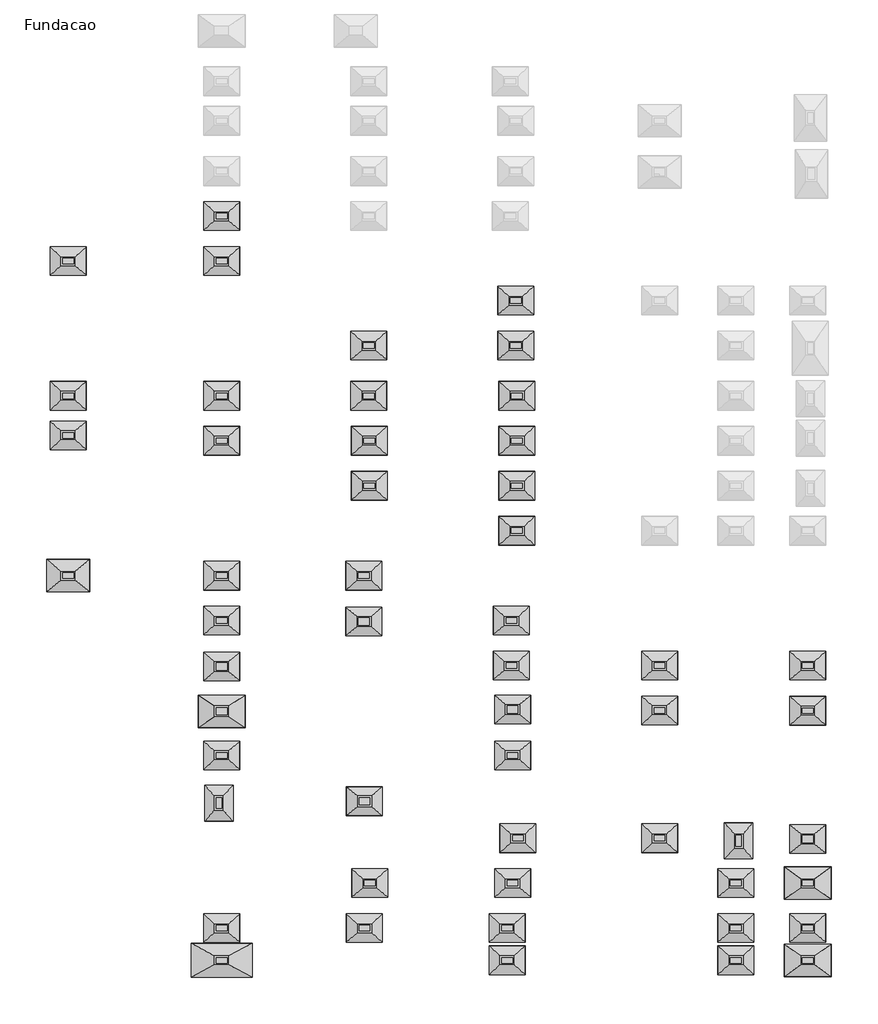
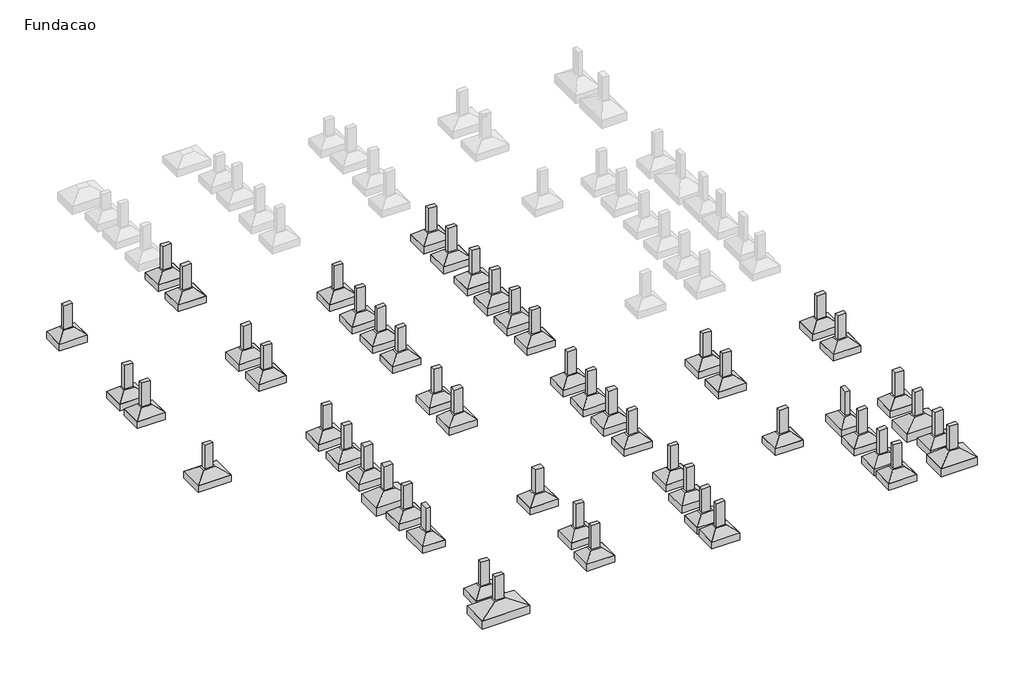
# One storey, part 1 of 2: 52 columns, 52 fasteners.
"""IFC4 building model written with IfcOpenShell, lengths in millimetres."""

from ifc_helpers import new_model, si_unit, origin, place, context, project, spatial, faceted_brep, transform, mapped, element, save
from components import tqs_pilar_retangular_15_0x30_0_0037dfdc, tqs_pilar_retangular_20_0x30_0_43656a7f, s1_6223030e, s14_25b32baf, s58_72b41ca2, s64_ef9f5a06, s15_ff27a8e9, s85_b6db43a6

model = new_model("IFC4")

# Units and contexts
model_context = context("Model", 3, world=origin())
ifc_project = project(units=[si_unit("LENGTHUNIT", "METRE", prefix="MILLI")], contexts=[model_context])

# Site, building, storey
site = spatial("IfcSite", under=ifc_project)
building = spatial("IfcBuilding", under=site)
storey = spatial("IfcBuildingStorey", under=building, Name="Fundacao", Elevation=0.0)

# Columns
placement = place(None, origin())
element("IfcColumn", 1, ObjectType="TQS - Pilar retangular : 15,0x30,0", at=placement, inside=storey, context=model_context, shape_type="Brep", body=[
    faceted_brep([(46000.0, 6220.0, 0.0), (46300.0, 6220.0, 0.0), (46300.0, 6070.0, 0.0), (46000.0, 6070.0, 0.0), (46000.0, 6220.0, 900.0), (46300.0, 6220.0, 900.0), (46000.0, 6220.0, 800.0), (46300.0, 6070.0, 900.0), (46000.0, 6070.0, 900.0)], [[[0, 1, 2, 3]], [[4, 5, 1, 0, 6]], [[5, 7, 2, 1]], [[7, 8, 3, 2]], [[8, 4, 6, 0, 3]], [[4, 8, 7, 5]]]),
])
element("IfcColumn", 2, ObjectType="TQS - Pilar retangular : 15,0x30,0", at=placement, inside=storey, context=model_context, shape_type="Brep", body=[
    faceted_brep([(37820.0, 9820.0, 0.0), (38120.0, 9820.0, 0.0), (38120.0, 9670.0, 0.0), (37820.0, 9670.0, 0.0), (37820.0, 9820.0, 900.0), (38120.0, 9820.0, 900.0), (37820.0, 9820.0, 800.0), (38120.0, 9670.0, 900.0), (37820.0, 9670.0, 900.0)], [[[0, 1, 2, 3]], [[4, 5, 1, 0, 6]], [[5, 7, 2, 1]], [[7, 8, 3, 2]], [[8, 4, 6, 0, 3]], [[4, 8, 7, 5]]]),
])
element("IfcColumn", 3, ObjectType="TQS - Pilar retangular : 15,0x30,0", at=placement, inside=storey, context=model_context, shape_type="Brep", body=[
    faceted_brep([(46000.0, 7470.0, 0.0), (46300.0, 7470.0, 0.0), (46300.0, 7320.0, 0.0), (46000.0, 7320.0, 0.0), (46000.0, 7470.0, 900.0), (46300.0, 7470.0, 900.0), (46300.0, 7470.0, 800.0), (46000.0, 7470.0, 800.0), (46300.0, 7320.0, 900.0), (46300.0, 7320.0, 800.0), (46000.0, 7320.0, 900.0), (46000.0, 7320.0, 800.0)], [[[0, 1, 2, 3]], [[4, 5, 6, 1, 0, 7]], [[5, 8, 9, 2, 1, 6]], [[8, 10, 11, 3, 2, 9]], [[10, 4, 7, 0, 3, 11]], [[4, 10, 8, 5]]]),
])
tqs_pilar_retangular_15_0x30_0_shape = tqs_pilar_retangular_15_0x30_0_0037dfdc(model_context)
element("IfcColumn", 4, ObjectType="TQS - Pilar retangular : 15,0x30,0", at=placement, inside=storey, context=model_context, shape_type="MappedRepresentation", body=[
    mapped(tqs_pilar_retangular_15_0x30_0_shape, transform((37970.0, -10955.0, 0.0), x_axis=(0.0, -1.0, 0.0), y_axis=(1.0, 0.0, 0.0), z_axis=(0.0, 0.0, 1.0))),
])
element("IfcColumn", 5, ObjectType="TQS - Pilar retangular : 15,0x30,0", at=placement, inside=storey, context=model_context, shape_type="MappedRepresentation", body=[
    mapped(tqs_pilar_retangular_15_0x30_0_shape, transform((37970.0, -10055.0, 0.0), x_axis=(0.0, -1.0, 0.0), y_axis=(1.0, 0.0, 0.0), z_axis=(0.0, 0.0, 1.0))),
])
element("IfcColumn", 6, ObjectType="TQS - Pilar retangular : 15,0x30,0", at=placement, inside=storey, context=model_context, shape_type="MappedRepresentation", body=[
    mapped(tqs_pilar_retangular_15_0x30_0_shape, transform((37895.0, -6580.0, 0.0), x_axis=(1.0, 0.0, 0.0), y_axis=(0.0, 1.0, 0.0), z_axis=(0.0, 0.0, 1.0))),
])
element("IfcColumn", 7, ObjectType="TQS - Pilar retangular : 15,0x30,0", at=placement, inside=storey, context=model_context, shape_type="MappedRepresentation", body=[
    mapped(tqs_pilar_retangular_15_0x30_0_shape, transform((41940.0, -10055.0, 0.0), x_axis=(0.0, -1.0, 0.0), y_axis=(1.0, 0.0, 0.0), z_axis=(0.0, 0.0, 1.0))),
])
element("IfcColumn", 8, ObjectType="TQS - Pilar retangular : 15,0x30,0", at=placement, inside=storey, context=model_context, shape_type="MappedRepresentation", body=[
    mapped(tqs_pilar_retangular_15_0x30_0_shape, transform((46060.0, -5255.0, 0.0), x_axis=(0.0, -1.0, 0.0), y_axis=(1.0, 0.0, 0.0), z_axis=(0.0, 0.0, 1.0))),
])
element("IfcColumn", 9, ObjectType="TQS - Pilar retangular : 15,0x30,0", at=placement, inside=storey, context=model_context, shape_type="MappedRepresentation", body=[
    mapped(tqs_pilar_retangular_15_0x30_0_shape, transform((46060.0, -8805.0, 0.0), x_axis=(0.0, -1.0, 0.0), y_axis=(1.0, 0.0, 0.0), z_axis=(0.0, 0.0, 1.0))),
])
element("IfcColumn", 10, ObjectType="TQS - Pilar retangular : 15,0x30,0", at=placement, inside=storey, context=model_context, shape_type="MappedRepresentation", body=[
    mapped(tqs_pilar_retangular_15_0x30_0_shape, transform((50150.0, -4005.0, 0.0), x_axis=(0.0, -1.0, 0.0), y_axis=(1.0, 0.0, 0.0), z_axis=(0.0, 0.0, 1.0))),
])
element("IfcColumn", 11, ObjectType="TQS - Pilar retangular : 15,0x30,0", at=placement, inside=storey, context=model_context, shape_type="MappedRepresentation", body=[
    mapped(tqs_pilar_retangular_15_0x30_0_shape, transform((50150.0, -7555.0, 0.0), x_axis=(0.0, -1.0, 0.0), y_axis=(1.0, 0.0, 0.0), z_axis=(0.0, 0.0, 1.0))),
])
element("IfcColumn", 12, ObjectType="TQS - Pilar retangular : 15,0x30,0", at=placement, inside=storey, context=model_context, shape_type="MappedRepresentation", body=[
    mapped(tqs_pilar_retangular_15_0x30_0_shape, transform((52345.0, -7630.0, 0.0), x_axis=(-1.0, 0.0, 0.0), y_axis=(0.0, -1.0, 0.0), z_axis=(0.0, 0.0, 1.0))),
])
element("IfcColumn", 13, ObjectType="TQS - Pilar retangular : 15,0x30,0", at=placement, inside=storey, context=model_context, shape_type="MappedRepresentation", body=[
    mapped(tqs_pilar_retangular_15_0x30_0_shape, transform((46030.0, -2755.0, 0.0), x_axis=(0.0, 1.0, 0.0), y_axis=(-1.0, 0.0, 0.0), z_axis=(0.0, 0.0, 1.0))),
])
element("IfcColumn", 14, ObjectType="TQS - Pilar retangular : 15,0x30,0", at=placement, inside=storey, context=model_context, shape_type="MappedRepresentation", body=[
    mapped(tqs_pilar_retangular_15_0x30_0_shape, transform((50150.0, -2755.0, 0.0), x_axis=(0.0, 1.0, 0.0), y_axis=(-1.0, 0.0, 0.0), z_axis=(0.0, 0.0, 1.0))),
])
element("IfcColumn", 15, ObjectType="TQS - Pilar retangular : 15,0x30,0", at=placement, inside=storey, context=model_context, shape_type="MappedRepresentation", body=[
    mapped(tqs_pilar_retangular_15_0x30_0_shape, transform((46030.0, -1505.0, 0.0), x_axis=(0.0, 1.0, 0.0), y_axis=(-1.0, 0.0, 0.0), z_axis=(0.0, 0.0, 1.0))),
])
element("IfcColumn", 16, ObjectType="TQS - Pilar retangular : 15,0x30,0", at=placement, inside=storey, context=model_context, shape_type="MappedRepresentation", body=[
    mapped(tqs_pilar_retangular_15_0x30_0_shape, transform((37970.0, -1505.0, 0.0), x_axis=(0.0, 1.0, 0.0), y_axis=(-1.0, 0.0, 0.0), z_axis=(0.0, 0.0, 1.0))),
])
element("IfcColumn", 17, ObjectType="TQS - Pilar retangular : 15,0x30,0", at=placement, inside=storey, context=model_context, shape_type="MappedRepresentation", body=[
    mapped(tqs_pilar_retangular_15_0x30_0_shape, transform((46180.0, 2245.0, 0.0), x_axis=(0.0, 1.0, 0.0), y_axis=(-1.0, 0.0, 0.0), z_axis=(0.0, 0.0, 1.0))),
])
element("IfcColumn", 18, ObjectType="TQS - Pilar retangular : 15,0x30,0", at=placement, inside=storey, context=model_context, shape_type="MappedRepresentation", body=[
    mapped(tqs_pilar_retangular_15_0x30_0_shape, transform((46180.0, 995.0, 0.0), x_axis=(0.0, 1.0, 0.0), y_axis=(-1.0, 0.0, 0.0), z_axis=(0.0, 0.0, 1.0))),
])
element("IfcColumn", 19, ObjectType="TQS - Pilar retangular : 15,0x30,0", at=placement, inside=storey, context=model_context, shape_type="MappedRepresentation", body=[
    mapped(tqs_pilar_retangular_15_0x30_0_shape, transform((37970.0, -255.0, 0.0), x_axis=(0.0, 1.0, 0.0), y_axis=(-1.0, 0.0, 0.0), z_axis=(0.0, 0.0, 1.0))),
])
element("IfcColumn", 20, ObjectType="TQS - Pilar retangular : 15,0x30,0", at=placement, inside=storey, context=model_context, shape_type="MappedRepresentation", body=[
    mapped(tqs_pilar_retangular_15_0x30_0_shape, transform((41925.0, -255.0, 0.0), x_axis=(0.0, 1.0, 0.0), y_axis=(-1.0, 0.0, 0.0), z_axis=(0.0, 0.0, 1.0))),
])
element("IfcColumn", 21, ObjectType="TQS - Pilar retangular : 15,0x30,0", at=placement, inside=storey, context=model_context, shape_type="MappedRepresentation", body=[
    mapped(tqs_pilar_retangular_15_0x30_0_shape, transform((42075.0, 2245.0, 0.0), x_axis=(0.0, 1.0, 0.0), y_axis=(-1.0, 0.0, 0.0), z_axis=(0.0, 0.0, 1.0))),
])
element("IfcColumn", 22, ObjectType="TQS - Pilar retangular : 15,0x30,0", at=placement, inside=storey, context=model_context, shape_type="MappedRepresentation", body=[
    mapped(tqs_pilar_retangular_15_0x30_0_shape, transform((42075.0, 3495.0, 0.0), x_axis=(0.0, 1.0, 0.0), y_axis=(-1.0, 0.0, 0.0), z_axis=(0.0, 0.0, 1.0))),
])
element("IfcColumn", 23, ObjectType="TQS - Pilar retangular : 15,0x30,0", at=placement, inside=storey, context=model_context, shape_type="MappedRepresentation", body=[
    mapped(tqs_pilar_retangular_15_0x30_0_shape, transform((37970.0, 3495.0, 0.0), x_axis=(0.0, 1.0, 0.0), y_axis=(-1.0, 0.0, 0.0), z_axis=(0.0, 0.0, 1.0))),
])
element("IfcColumn", 24, ObjectType="TQS - Pilar retangular : 15,0x30,0", at=placement, inside=storey, context=model_context, shape_type="MappedRepresentation", body=[
    mapped(tqs_pilar_retangular_15_0x30_0_shape, transform((46180.0, 3495.0, 0.0), x_axis=(0.0, 1.0, 0.0), y_axis=(-1.0, 0.0, 0.0), z_axis=(0.0, 0.0, 1.0))),
])
element("IfcColumn", 25, ObjectType="TQS - Pilar retangular : 15,0x30,0", at=placement, inside=storey, context=model_context, shape_type="MappedRepresentation", body=[
    mapped(tqs_pilar_retangular_15_0x30_0_shape, transform((37970.0, 4745.0, 0.0), x_axis=(0.0, 1.0, 0.0), y_axis=(-1.0, 0.0, 0.0), z_axis=(0.0, 0.0, 1.0))),
])
element("IfcColumn", 26, ObjectType="TQS - Pilar retangular : 15,0x30,0", at=placement, inside=storey, context=model_context, shape_type="MappedRepresentation", body=[
    mapped(tqs_pilar_retangular_15_0x30_0_shape, transform((42060.0, 4745.0, 0.0), x_axis=(0.0, 1.0, 0.0), y_axis=(-1.0, 0.0, 0.0), z_axis=(0.0, 0.0, 1.0))),
])
element("IfcColumn", 27, ObjectType="TQS - Pilar retangular : 15,0x30,0", at=placement, inside=storey, context=model_context, shape_type="MappedRepresentation", body=[
    mapped(tqs_pilar_retangular_15_0x30_0_shape, transform((46180.0, 4745.0, 0.0), x_axis=(0.0, 1.0, 0.0), y_axis=(-1.0, 0.0, 0.0), z_axis=(0.0, 0.0, 1.0))),
])
element("IfcColumn", 28, ObjectType="TQS - Pilar retangular : 15,0x30,0", at=placement, inside=storey, context=model_context, shape_type="MappedRepresentation", body=[
    mapped(tqs_pilar_retangular_15_0x30_0_shape, transform((42060.0, 6145.0, 0.0), x_axis=(0.0, 1.0, 0.0), y_axis=(-1.0, 0.0, 0.0), z_axis=(0.0, 0.0, 1.0))),
])
element("IfcColumn", 29, ObjectType="TQS - Pilar retangular : 15,0x30,0", at=placement, inside=storey, context=model_context, shape_type="MappedRepresentation", body=[
    mapped(tqs_pilar_retangular_15_0x30_0_shape, transform((37970.0, 8495.0, 0.0), x_axis=(0.0, 1.0, 0.0), y_axis=(-1.0, 0.0, 0.0), z_axis=(0.0, 0.0, 1.0))),
])
element("IfcColumn", 30, ObjectType="TQS - Pilar retangular : 15,0x30,0", at=placement, inside=storey, context=model_context, shape_type="MappedRepresentation", body=[
    mapped(tqs_pilar_retangular_15_0x30_0_shape, transform((45910.0, -10055.0, 0.0), x_axis=(0.0, -1.0, 0.0), y_axis=(1.0, 0.0, 0.0), z_axis=(0.0, 0.0, 1.0))),
])
element("IfcColumn", 31, ObjectType="TQS - Pilar retangular : 15,0x30,0", at=placement, inside=storey, context=model_context, shape_type="MappedRepresentation", body=[
    mapped(tqs_pilar_retangular_15_0x30_0_shape, transform((45910.0, -10955.0, 0.0), x_axis=(0.0, -1.0, 0.0), y_axis=(1.0, 0.0, 0.0), z_axis=(0.0, 0.0, 1.0))),
])
element("IfcColumn", 32, ObjectType="TQS - Pilar retangular : 15,0x30,0", at=placement, inside=storey, context=model_context, shape_type="MappedRepresentation", body=[
    mapped(tqs_pilar_retangular_15_0x30_0_shape, transform((52270.0, -10055.0, 0.0), x_axis=(0.0, -1.0, 0.0), y_axis=(1.0, 0.0, 0.0), z_axis=(0.0, 0.0, 1.0))),
])
element("IfcColumn", 33, ObjectType="TQS - Pilar retangular : 15,0x30,0", at=placement, inside=storey, context=model_context, shape_type="MappedRepresentation", body=[
    mapped(tqs_pilar_retangular_15_0x30_0_shape, transform((52270.0, -10955.0, 0.0), x_axis=(0.0, -1.0, 0.0), y_axis=(1.0, 0.0, 0.0), z_axis=(0.0, 0.0, 1.0))),
])
element("IfcColumn", 34, ObjectType="TQS - Pilar retangular : 15,0x30,0", at=placement, inside=storey, context=model_context, shape_type="MappedRepresentation", body=[
    mapped(tqs_pilar_retangular_15_0x30_0_shape, transform((52270.0, -8805.0, 0.0), x_axis=(0.0, -1.0, 0.0), y_axis=(1.0, 0.0, 0.0), z_axis=(0.0, 0.0, 1.0))),
])
element("IfcColumn", 35, ObjectType="TQS - Pilar retangular : 15,0x30,0", at=placement, inside=storey, context=model_context, shape_type="MappedRepresentation", body=[
    mapped(tqs_pilar_retangular_15_0x30_0_shape, transform((33700.0, -255.0, 0.0), x_axis=(0.0, 1.0, 0.0), y_axis=(-1.0, 0.0, 0.0), z_axis=(0.0, 0.0, 1.0))),
])
element("IfcColumn", 36, ObjectType="TQS - Pilar retangular : 15,0x30,0", at=placement, inside=storey, context=model_context, shape_type="MappedRepresentation", body=[
    mapped(tqs_pilar_retangular_15_0x30_0_shape, transform((33700.0, 8495.0, 0.0), x_axis=(0.0, 1.0, 0.0), y_axis=(-1.0, 0.0, 0.0), z_axis=(0.0, 0.0, 1.0))),
])
element("IfcColumn", 37, ObjectType="TQS - Pilar retangular : 15,0x30,0", at=placement, inside=storey, context=model_context, shape_type="MappedRepresentation", body=[
    mapped(tqs_pilar_retangular_15_0x30_0_shape, transform((33700.0, 4745.0, 0.0), x_axis=(0.0, 1.0, 0.0), y_axis=(-1.0, 0.0, 0.0), z_axis=(0.0, 0.0, 1.0))),
])
element("IfcColumn", 38, ObjectType="TQS - Pilar retangular : 15,0x30,0", at=placement, inside=storey, context=model_context, shape_type="MappedRepresentation", body=[
    mapped(tqs_pilar_retangular_15_0x30_0_shape, transform((33700.0, 3645.0, 0.0), x_axis=(0.0, -1.0, 0.0), y_axis=(1.0, 0.0, 0.0), z_axis=(0.0, 0.0, 1.0))),
])
element("IfcColumn", 39, ObjectType="TQS - Pilar retangular : 15,0x30,0", at=placement, inside=storey, context=model_context, shape_type="MappedRepresentation", body=[
    mapped(tqs_pilar_retangular_15_0x30_0_shape, transform((54270.0, -10055.0, 0.0), x_axis=(0.0, -1.0, 0.0), y_axis=(1.0, 0.0, 0.0), z_axis=(0.0, 0.0, 1.0))),
])
element("IfcColumn", 40, ObjectType="TQS - Pilar retangular : 15,0x30,0", at=placement, inside=storey, context=model_context, shape_type="MappedRepresentation", body=[
    mapped(tqs_pilar_retangular_15_0x30_0_shape, transform((54270.0, -10955.0, 0.0), x_axis=(0.0, -1.0, 0.0), y_axis=(1.0, 0.0, 0.0), z_axis=(0.0, 0.0, 1.0))),
])
element("IfcColumn", 41, ObjectType="TQS - Pilar retangular : 15,0x30,0", at=placement, inside=storey, context=model_context, shape_type="MappedRepresentation", body=[
    mapped(tqs_pilar_retangular_15_0x30_0_shape, transform((54270.0, -8805.0, 0.0), x_axis=(0.0, -1.0, 0.0), y_axis=(1.0, 0.0, 0.0), z_axis=(0.0, 0.0, 1.0))),
])
element("IfcColumn", 42, ObjectType="TQS - Pilar retangular : 15,0x30,0", at=placement, inside=storey, context=model_context, shape_type="MappedRepresentation", body=[
    mapped(tqs_pilar_retangular_15_0x30_0_shape, transform((42090.0, -8805.0, 0.0), x_axis=(0.0, -1.0, 0.0), y_axis=(1.0, 0.0, 0.0), z_axis=(0.0, 0.0, 1.0))),
])
element("IfcColumn", 43, ObjectType="TQS - Pilar retangular : 15,0x30,0", at=placement, inside=storey, context=model_context, shape_type="MappedRepresentation", body=[
    mapped(tqs_pilar_retangular_15_0x30_0_shape, transform((46210.0, -7555.0, 0.0), x_axis=(0.0, -1.0, 0.0), y_axis=(1.0, 0.0, 0.0), z_axis=(0.0, 0.0, 1.0))),
])
element("IfcColumn", 44, ObjectType="TQS - Pilar retangular : 15,0x30,0", at=placement, inside=storey, context=model_context, shape_type="MappedRepresentation", body=[
    mapped(tqs_pilar_retangular_15_0x30_0_shape, transform((54270.0, -4013.8177552, 0.0), x_axis=(0.0, -1.0, 0.0), y_axis=(1.0, 0.0, 0.0), z_axis=(0.0, 0.0, 1.0))),
])
element("IfcColumn", 45, ObjectType="TQS - Pilar retangular : 15,0x30,0", at=placement, inside=storey, context=model_context, shape_type="MappedRepresentation", body=[
    mapped(tqs_pilar_retangular_15_0x30_0_shape, transform((54270.0, -2755.0, 0.0), x_axis=(0.0, -1.0, 0.0), y_axis=(1.0, 0.0, 0.0), z_axis=(0.0, 0.0, 1.0))),
])
element("IfcColumn", 46, ObjectType="TQS - Pilar retangular : 15,0x30,0", at=placement, inside=storey, context=model_context, shape_type="MappedRepresentation", body=[
    mapped(tqs_pilar_retangular_15_0x30_0_shape, transform((37970.0, -5255.0, 0.0), x_axis=(0.0, 1.0, 0.0), y_axis=(-1.0, 0.0, 0.0), z_axis=(0.0, 0.0, 1.0))),
])
tqs_pilar_retangular_20_0x30_0_shape = tqs_pilar_retangular_20_0x30_0_43656a7f(model_context)
element("IfcColumn", 47, ObjectType="TQS - Pilar retangular : 20,0x30,0", at=placement, inside=storey, context=model_context, shape_type="MappedRepresentation", body=[
    mapped(tqs_pilar_retangular_20_0x30_0_shape, transform((41940.0, -6530.0, 0.0), x_axis=(0.0, -1.0, 0.0), y_axis=(1.0, 0.0, 0.0), z_axis=(0.0, 0.0, 1.0))),
])
element("IfcColumn", 48, ObjectType="TQS - Pilar retangular : 20,0x30,0", at=placement, inside=storey, context=model_context, shape_type="MappedRepresentation", body=[
    mapped(tqs_pilar_retangular_20_0x30_0_shape, transform((46060.0, -3980.0, 0.0), x_axis=(0.0, 1.0, 0.0), y_axis=(-1.0, 0.0, 0.0), z_axis=(0.0, 0.0, 1.0))),
])
element("IfcColumn", 49, ObjectType="TQS - Pilar retangular : 20,0x30,0", at=placement, inside=storey, context=model_context, shape_type="MappedRepresentation", body=[
    mapped(tqs_pilar_retangular_20_0x30_0_shape, transform((37970.0, -4030.0, 0.0), x_axis=(0.0, 1.0, 0.0), y_axis=(-1.0, 0.0, 0.0), z_axis=(0.0, 0.0, 1.0))),
])
element("IfcColumn", 50, ObjectType="TQS - Pilar retangular : 20,0x30,0", at=placement, inside=storey, context=model_context, shape_type="MappedRepresentation", body=[
    mapped(tqs_pilar_retangular_20_0x30_0_shape, transform((37970.0, -2780.0, 0.0), x_axis=(0.0, 1.0, 0.0), y_axis=(-1.0, 0.0, 0.0), z_axis=(0.0, 0.0, 1.0))),
])
element("IfcColumn", 51, ObjectType="TQS - Pilar retangular : 20,0x30,0", at=placement, inside=storey, context=model_context, shape_type="MappedRepresentation", body=[
    mapped(tqs_pilar_retangular_20_0x30_0_shape, transform((41925.0, -1530.0, 0.0), x_axis=(0.0, 1.0, 0.0), y_axis=(-1.0, 0.0, 0.0), z_axis=(0.0, 0.0, 1.0))),
])
element("IfcColumn", 52, ObjectType="TQS - Pilar retangular : 20,0x30,0", at=placement, inside=storey, context=model_context, shape_type="MappedRepresentation", body=[
    mapped(tqs_pilar_retangular_20_0x30_0_shape, transform((54270.0, -7580.0, 0.0), x_axis=(0.0, -1.0, 0.0), y_axis=(1.0, 0.0, 0.0), z_axis=(0.0, 0.0, 1.0))),
])

# Fasteners
s1_shape = s1_6223030e(model_context)
element("IfcFastener", 53, ObjectType="TQS - Sapata : S21", at=placement, inside=storey, context=model_context, shape_type="MappedRepresentation", body=[
    mapped(s1_shape, transform((37770.0, 9945.0, 0.0), x_axis=(0.0, 1.0, 0.0), y_axis=(-1.0, 0.0, 0.0), z_axis=(0.0, 0.0, 1.0))),
])
element("IfcFastener", 54, ObjectType="TQS - Sapata : S24", at=placement, inside=storey, context=model_context, shape_type="MappedRepresentation", body=[
    mapped(s1_shape, transform((33500.0, 8695.0, 0.0), x_axis=(0.0, 1.0, 0.0), y_axis=(-1.0, 0.0, 0.0), z_axis=(0.0, 0.0, 1.0))),
])
element("IfcFastener", 55, ObjectType="TQS - Sapata : S25", at=placement, inside=storey, context=model_context, shape_type="MappedRepresentation", body=[
    mapped(s1_shape, transform((37770.0, 8695.0, 0.0), x_axis=(0.0, 1.0, 0.0), y_axis=(-1.0, 0.0, 0.0), z_axis=(0.0, 0.0, 1.0))),
])
element("IfcFastener", 56, ObjectType="TQS - Sapata : S27", at=placement, inside=storey, context=model_context, shape_type="MappedRepresentation", body=[
    mapped(s1_shape, transform((45950.0, 7595.0, 0.0), x_axis=(0.0, 1.0, 0.0), y_axis=(-1.0, 0.0, 0.0), z_axis=(0.0, 0.0, 1.0))),
])
element("IfcFastener", 57, ObjectType="TQS - Sapata : S30", at=placement, inside=storey, context=model_context, shape_type="MappedRepresentation", body=[
    mapped(s1_shape, transform((41860.0, 6345.0, 0.0), x_axis=(0.0, 1.0, 0.0), y_axis=(-1.0, 0.0, 0.0), z_axis=(0.0, 0.0, 1.0))),
])
element("IfcFastener", 58, ObjectType="TQS - Sapata : S31", at=placement, inside=storey, context=model_context, shape_type="MappedRepresentation", body=[
    mapped(s1_shape, transform((45950.0, 6345.0, 0.0), x_axis=(0.0, 1.0, 0.0), y_axis=(-1.0, 0.0, 0.0), z_axis=(0.0, 0.0, 1.0))),
])
element("IfcFastener", 59, ObjectType="TQS - Sapata : S34", at=placement, inside=storey, context=model_context, shape_type="MappedRepresentation", body=[
    mapped(s1_shape, transform((33500.0, 4945.0, 0.0), x_axis=(0.0, 1.0, 0.0), y_axis=(-1.0, 0.0, 0.0), z_axis=(0.0, 0.0, 1.0))),
])
element("IfcFastener", 60, ObjectType="TQS - Sapata : S35", at=placement, inside=storey, context=model_context, shape_type="MappedRepresentation", body=[
    mapped(s1_shape, transform((37770.0, 4945.0, 0.0), x_axis=(0.0, 1.0, 0.0), y_axis=(-1.0, 0.0, 0.0), z_axis=(0.0, 0.0, 1.0))),
])
element("IfcFastener", 61, ObjectType="TQS - Sapata : S36", at=placement, inside=storey, context=model_context, shape_type="MappedRepresentation", body=[
    mapped(s1_shape, transform((41860.0, 4945.0, 0.0), x_axis=(0.0, 1.0, 0.0), y_axis=(-1.0, 0.0, 0.0), z_axis=(0.0, 0.0, 1.0))),
])
element("IfcFastener", 62, ObjectType="TQS - Sapata : S37", at=placement, inside=storey, context=model_context, shape_type="MappedRepresentation", body=[
    mapped(s1_shape, transform((45980.0, 4945.0, 0.0), x_axis=(0.0, 1.0, 0.0), y_axis=(-1.0, 0.0, 0.0), z_axis=(0.0, 0.0, 1.0))),
])
element("IfcFastener", 63, ObjectType="TQS - Sapata : S40", at=placement, inside=storey, context=model_context, shape_type="MappedRepresentation", body=[
    mapped(s1_shape, transform((33900.0, 3445.0, 0.0), x_axis=(0.0, -1.0, 0.0), y_axis=(1.0, 0.0, 0.0), z_axis=(0.0, 0.0, 1.0))),
])
element("IfcFastener", 64, ObjectType="TQS - Sapata : S41", at=placement, inside=storey, context=model_context, shape_type="MappedRepresentation", body=[
    mapped(s1_shape, transform((37770.0, 3695.0, 0.0), x_axis=(0.0, 1.0, 0.0), y_axis=(-1.0, 0.0, 0.0), z_axis=(0.0, 0.0, 1.0))),
])
element("IfcFastener", 65, ObjectType="TQS - Sapata : S42", at=placement, inside=storey, context=model_context, shape_type="MappedRepresentation", body=[
    mapped(s1_shape, transform((41875.0, 3695.0, 0.0), x_axis=(0.0, 1.0, 0.0), y_axis=(-1.0, 0.0, 0.0), z_axis=(0.0, 0.0, 1.0))),
])
element("IfcFastener", 66, ObjectType="TQS - Sapata : S43", at=placement, inside=storey, context=model_context, shape_type="MappedRepresentation", body=[
    mapped(s1_shape, transform((45980.0, 3695.0, 0.0), x_axis=(0.0, 1.0, 0.0), y_axis=(-1.0, 0.0, 0.0), z_axis=(0.0, 0.0, 1.0))),
])
element("IfcFastener", 67, ObjectType="TQS - Sapata : S46", at=placement, inside=storey, context=model_context, shape_type="MappedRepresentation", body=[
    mapped(s1_shape, transform((41875.0, 2445.0, 0.0), x_axis=(0.0, 1.0, 0.0), y_axis=(-1.0, 0.0, 0.0), z_axis=(0.0, 0.0, 1.0))),
])
element("IfcFastener", 68, ObjectType="TQS - Sapata : S47", at=placement, inside=storey, context=model_context, shape_type="MappedRepresentation", body=[
    mapped(s1_shape, transform((45980.0, 2445.0, 0.0), x_axis=(0.0, 1.0, 0.0), y_axis=(-1.0, 0.0, 0.0), z_axis=(0.0, 0.0, 1.0))),
])
element("IfcFastener", 69, ObjectType="TQS - Sapata : S50", at=placement, inside=storey, context=model_context, shape_type="MappedRepresentation", body=[
    mapped(s1_shape, transform((45980.0, 1195.0, 0.0), x_axis=(0.0, 1.0, 0.0), y_axis=(-1.0, 0.0, 0.0), z_axis=(0.0, 0.0, 1.0))),
])
s14_shape = s14_25b32baf(model_context)
element("IfcFastener", 70, ObjectType="TQS - Sapata : S54", at=placement, inside=storey, context=model_context, shape_type="MappedRepresentation", body=[
    mapped(s14_shape, transform((33500.0, -55.0, 0.0), x_axis=(0.0, 1.0, 0.0), y_axis=(-1.0, 0.0, 0.0), z_axis=(0.0, 0.0, 1.0))),
])
element("IfcFastener", 71, ObjectType="TQS - Sapata : S55", at=placement, inside=storey, context=model_context, shape_type="MappedRepresentation", body=[
    mapped(s1_shape, transform((37770.0, -55.0, 0.0), x_axis=(0.0, 1.0, 0.0), y_axis=(-1.0, 0.0, 0.0), z_axis=(0.0, 0.0, 1.0))),
])
element("IfcFastener", 72, ObjectType="TQS - Sapata : S56", at=placement, inside=storey, context=model_context, shape_type="MappedRepresentation", body=[
    mapped(s1_shape, transform((41725.0, -55.0, 0.0), x_axis=(0.0, 1.0, 0.0), y_axis=(-1.0, 0.0, 0.0), z_axis=(0.0, 0.0, 1.0))),
])
element("IfcFastener", 73, ObjectType="TQS - Sapata : S57", at=placement, inside=storey, context=model_context, shape_type="MappedRepresentation", body=[
    mapped(s1_shape, transform((37770.0, -1305.0, 0.0), x_axis=(0.0, 1.0, 0.0), y_axis=(-1.0, 0.0, 0.0), z_axis=(0.0, 0.0, 1.0))),
])
s58_shape = s58_72b41ca2(model_context)
element("IfcFastener", 74, ObjectType="TQS - Sapata : S58", at=placement, inside=storey, context=model_context, shape_type="MappedRepresentation", body=[
    mapped(s58_shape, transform((41725.0, -1330.0, 0.0), x_axis=(0.0, 1.0, 0.0), y_axis=(-1.0, 0.0, 0.0), z_axis=(0.0, 0.0, 1.0))),
])
element("IfcFastener", 75, ObjectType="TQS - Sapata : S59", at=placement, inside=storey, context=model_context, shape_type="MappedRepresentation", body=[
    mapped(s1_shape, transform((45830.0, -1305.0, 0.0), x_axis=(0.0, 1.0, 0.0), y_axis=(-1.0, 0.0, 0.0), z_axis=(0.0, 0.0, 1.0))),
])
element("IfcFastener", 76, ObjectType="TQS - Sapata : S60", at=placement, inside=storey, context=model_context, shape_type="MappedRepresentation", body=[
    mapped(s58_shape, transform((37770.0, -2580.0, 0.0), x_axis=(0.0, 1.0, 0.0), y_axis=(-1.0, 0.0, 0.0), z_axis=(0.0, 0.0, 1.0))),
])
element("IfcFastener", 77, ObjectType="TQS - Sapata : S61", at=placement, inside=storey, context=model_context, shape_type="MappedRepresentation", body=[
    mapped(s1_shape, transform((45830.0, -2555.0, 0.0), x_axis=(0.0, 1.0, 0.0), y_axis=(-1.0, 0.0, 0.0), z_axis=(0.0, 0.0, 1.0))),
])
element("IfcFastener", 78, ObjectType="TQS - Sapata : S62", at=placement, inside=storey, context=model_context, shape_type="MappedRepresentation", body=[
    mapped(s1_shape, transform((49950.0, -2555.0, 0.0), x_axis=(0.0, 1.0, 0.0), y_axis=(-1.0, 0.0, 0.0), z_axis=(0.0, 0.0, 1.0))),
])
element("IfcFastener", 79, ObjectType="TQS - Sapata : S63", at=placement, inside=storey, context=model_context, shape_type="MappedRepresentation", body=[
    mapped(s1_shape, transform((54470.0, -2955.0, 0.0), x_axis=(0.0, -1.0, 0.0), y_axis=(1.0, 0.0, 0.0), z_axis=(0.0, 0.0, 1.0))),
])
s64_shape = s64_ef9f5a06(model_context)
element("IfcFastener", 80, ObjectType="TQS - Sapata : S64", at=placement, inside=storey, context=model_context, shape_type="MappedRepresentation", body=[
    mapped(s64_shape, transform((37770.0, -3830.0, 0.0), x_axis=(0.0, 1.0, 0.0), y_axis=(-1.0, 0.0, 0.0), z_axis=(0.0, 0.0, 1.0))),
])
element("IfcFastener", 81, ObjectType="TQS - Sapata : S65", at=placement, inside=storey, context=model_context, shape_type="MappedRepresentation", body=[
    mapped(s58_shape, transform((45860.0, -3780.0, 0.0), x_axis=(0.0, 1.0, 0.0), y_axis=(-1.0, 0.0, 0.0), z_axis=(0.0, 0.0, 1.0))),
])
element("IfcFastener", 82, ObjectType="TQS - Sapata : S66", at=placement, inside=storey, context=model_context, shape_type="MappedRepresentation", body=[
    mapped(s1_shape, transform((50350.0, -4205.0, 0.0), x_axis=(0.0, -1.0, 0.0), y_axis=(1.0, 0.0, 0.0), z_axis=(0.0, 0.0, 1.0))),
])
element("IfcFastener", 83, ObjectType="TQS - Sapata : S67", at=placement, inside=storey, context=model_context, shape_type="MappedRepresentation", body=[
    mapped(s1_shape, transform((54470.0, -4213.8177552, 0.0), x_axis=(0.0, -1.0, 0.0), y_axis=(1.0, 0.0, 0.0), z_axis=(0.0, 0.0, 1.0))),
])
element("IfcFastener", 84, ObjectType="TQS - Sapata : S68", at=placement, inside=storey, context=model_context, shape_type="MappedRepresentation", body=[
    mapped(s1_shape, transform((37770.0, -5055.0, 0.0), x_axis=(0.0, 1.0, 0.0), y_axis=(-1.0, 0.0, 0.0), z_axis=(0.0, 0.0, 1.0))),
])
element("IfcFastener", 85, ObjectType="TQS - Sapata : S69", at=placement, inside=storey, context=model_context, shape_type="MappedRepresentation", body=[
    mapped(s1_shape, transform((46260.0, -5455.0, 0.0), x_axis=(0.0, -1.0, 0.0), y_axis=(1.0, 0.0, 0.0), z_axis=(0.0, 0.0, 1.0))),
])
element("IfcFastener", 86, ObjectType="TQS - Sapata : S70", at=placement, inside=storey, context=model_context, shape_type="MappedRepresentation", body=[
    mapped(s58_shape, transform((42140.0, -6730.0, 0.0), x_axis=(0.0, -1.0, 0.0), y_axis=(1.0, 0.0, 0.0), z_axis=(0.0, 0.0, 1.0))),
])
element("IfcFastener", 87, ObjectType="TQS - Sapata : S71", at=placement, inside=storey, context=model_context, shape_type="MappedRepresentation", body=[
    mapped(s1_shape, transform((38095.0, -6380.0, 0.0), x_axis=(1.0, 0.0, 0.0), y_axis=(0.0, 1.0, 0.0), z_axis=(0.0, 0.0, 1.0))),
])
element("IfcFastener", 88, ObjectType="TQS - Sapata : S72", at=placement, inside=storey, context=model_context, shape_type="MappedRepresentation", body=[
    mapped(s1_shape, transform((52145.0, -7830.0, 0.0), x_axis=(-1.0, 0.0, 0.0), y_axis=(0.0, -1.0, 0.0), z_axis=(0.0, 0.0, 1.0))),
])
element("IfcFastener", 89, ObjectType="TQS - Sapata : S73", at=placement, inside=storey, context=model_context, shape_type="MappedRepresentation", body=[
    mapped(s58_shape, transform((54470.0, -7780.0, 0.0), x_axis=(0.0, -1.0, 0.0), y_axis=(1.0, 0.0, 0.0), z_axis=(0.0, 0.0, 1.0))),
])
element("IfcFastener", 90, ObjectType="TQS - Sapata : S74", at=placement, inside=storey, context=model_context, shape_type="MappedRepresentation", body=[
    mapped(s1_shape, transform((46410.0, -7755.0, 0.0), x_axis=(0.0, -1.0, 0.0), y_axis=(1.0, 0.0, 0.0), z_axis=(0.0, 0.0, 1.0))),
])
element("IfcFastener", 91, ObjectType="TQS - Sapata : S75", at=placement, inside=storey, context=model_context, shape_type="MappedRepresentation", body=[
    mapped(s1_shape, transform((50350.0, -7755.0, 0.0), x_axis=(0.0, -1.0, 0.0), y_axis=(1.0, 0.0, 0.0), z_axis=(0.0, 0.0, 1.0))),
])
element("IfcFastener", 92, ObjectType="TQS - Sapata : S76", at=placement, inside=storey, context=model_context, shape_type="MappedRepresentation", body=[
    mapped(s1_shape, transform((42290.0, -9005.0, 0.0), x_axis=(0.0, -1.0, 0.0), y_axis=(1.0, 0.0, 0.0), z_axis=(0.0, 0.0, 1.0))),
])
element("IfcFastener", 93, ObjectType="TQS - Sapata : S77", at=placement, inside=storey, context=model_context, shape_type="MappedRepresentation", body=[
    mapped(s1_shape, transform((52470.0, -9005.0, 0.0), x_axis=(0.0, -1.0, 0.0), y_axis=(1.0, 0.0, 0.0), z_axis=(0.0, 0.0, 1.0))),
])
s15_shape = s15_ff27a8e9(model_context)
element("IfcFastener", 94, ObjectType="TQS - Sapata : S78", at=placement, inside=storey, context=model_context, shape_type="MappedRepresentation", body=[
    mapped(s15_shape, transform((54470.0, -9005.0, 0.0), x_axis=(0.0, -1.0, 0.0), y_axis=(1.0, 0.0, 0.0), z_axis=(0.0, 0.0, 1.0))),
])
element("IfcFastener", 95, ObjectType="TQS - Sapata : S79", at=placement, inside=storey, context=model_context, shape_type="MappedRepresentation", body=[
    mapped(s1_shape, transform((46260.0, -9005.0, 0.0), x_axis=(0.0, -1.0, 0.0), y_axis=(1.0, 0.0, 0.0), z_axis=(0.0, 0.0, 1.0))),
])
element("IfcFastener", 96, ObjectType="TQS - Sapata : S80", at=placement, inside=storey, context=model_context, shape_type="MappedRepresentation", body=[
    mapped(s1_shape, transform((38170.0, -10255.0, 0.0), x_axis=(0.0, -1.0, 0.0), y_axis=(1.0, 0.0, 0.0), z_axis=(0.0, 0.0, 1.0))),
])
element("IfcFastener", 97, ObjectType="TQS - Sapata : S81", at=placement, inside=storey, context=model_context, shape_type="MappedRepresentation", body=[
    mapped(s1_shape, transform((42140.0, -10255.0, 0.0), x_axis=(0.0, -1.0, 0.0), y_axis=(1.0, 0.0, 0.0), z_axis=(0.0, 0.0, 1.0))),
])
element("IfcFastener", 98, ObjectType="TQS - Sapata : S82", at=placement, inside=storey, context=model_context, shape_type="MappedRepresentation", body=[
    mapped(s1_shape, transform((46110.0, -10255.0, 0.0), x_axis=(0.0, -1.0, 0.0), y_axis=(1.0, 0.0, 0.0), z_axis=(0.0, 0.0, 1.0))),
])
element("IfcFastener", 99, ObjectType="TQS - Sapata : S83", at=placement, inside=storey, context=model_context, shape_type="MappedRepresentation", body=[
    mapped(s1_shape, transform((52470.0, -10255.0, 0.0), x_axis=(0.0, -1.0, 0.0), y_axis=(1.0, 0.0, 0.0), z_axis=(0.0, 0.0, 1.0))),
])
element("IfcFastener", 100, ObjectType="TQS - Sapata : S84", at=placement, inside=storey, context=model_context, shape_type="MappedRepresentation", body=[
    mapped(s1_shape, transform((54470.0, -10255.0, 0.0), x_axis=(0.0, -1.0, 0.0), y_axis=(1.0, 0.0, 0.0), z_axis=(0.0, 0.0, 1.0))),
])
s85_shape = s85_b6db43a6(model_context)
element("IfcFastener", 101, ObjectType="TQS - Sapata : S85", at=placement, inside=storey, context=model_context, shape_type="MappedRepresentation", body=[
    mapped(s85_shape, transform((38170.0, -11155.0, 0.0), x_axis=(0.0, -1.0, 0.0), y_axis=(1.0, 0.0, 0.0), z_axis=(0.0, 0.0, 1.0))),
])
element("IfcFastener", 102, ObjectType="TQS - Sapata : S86", at=placement, inside=storey, context=model_context, shape_type="MappedRepresentation", body=[
    mapped(s1_shape, transform((46110.0, -11155.0, 0.0), x_axis=(0.0, -1.0, 0.0), y_axis=(1.0, 0.0, 0.0), z_axis=(0.0, 0.0, 1.0))),
])
element("IfcFastener", 103, ObjectType="TQS - Sapata : S87", at=placement, inside=storey, context=model_context, shape_type="MappedRepresentation", body=[
    mapped(s1_shape, transform((52470.0, -11155.0, 0.0), x_axis=(0.0, -1.0, 0.0), y_axis=(1.0, 0.0, 0.0), z_axis=(0.0, 0.0, 1.0))),
])
element("IfcFastener", 104, ObjectType="TQS - Sapata : S88", at=placement, inside=storey, context=model_context, shape_type="MappedRepresentation", body=[
    mapped(s15_shape, transform((54470.0, -11155.0, 0.0), x_axis=(0.0, -1.0, 0.0), y_axis=(1.0, 0.0, 0.0), z_axis=(0.0, 0.0, 1.0))),
])

save(model, "model.ifc")
